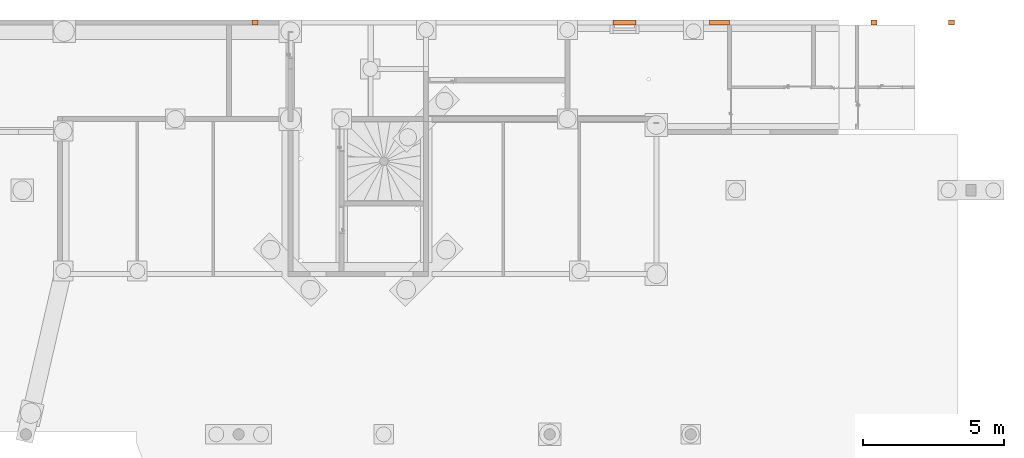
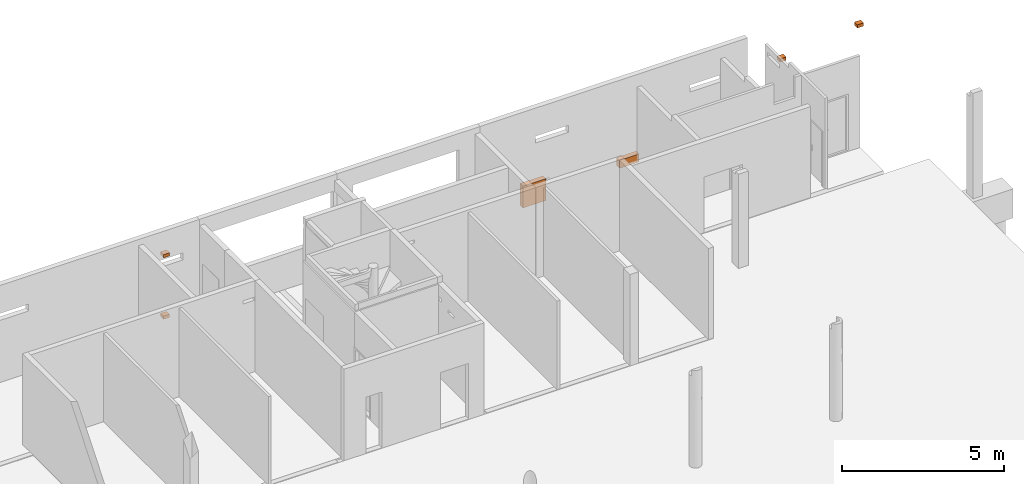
# One storey, part 29 of 29: 6 proxies.
"""IFC2X3 building model written with IfcOpenShell, lengths in centimetres."""

from ifc_helpers import new_model, entity, si_unit, converted_unit, derived_unit, direction, frame, frame_2d, origin, place, context, subcontext, project, spatial, rectangle, extrude, source, transform, mapped, material, type_object, type_shapes, element, save


model = new_model("IFC2X3")

# Units and contexts
model_context = context("Model", 3, precision=0.001, world=origin(), true_north=direction((6.12303176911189e-17, 1.0)))
body_context = subcontext(model_context, "Body", "Model", "MODEL_VIEW")
ifc_project = project(units=[si_unit("LENGTHUNIT", "METRE", prefix="CENTI"), si_unit("AREAUNIT", "SQUARE_METRE"), si_unit("VOLUMEUNIT", "CUBIC_METRE"), converted_unit("PLANEANGLEUNIT", "DEGREE", entity("IfcRatioMeasure", 0.0174532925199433), si_unit("PLANEANGLEUNIT", "RADIAN"), dimensions=[0, 0, 0, 0, 0, 0, 0]), si_unit("MASSUNIT", "GRAM", prefix="KILO"), derived_unit("MASSDENSITYUNIT", [(si_unit("MASSUNIT", "GRAM", prefix="KILO"), 1), (si_unit("LENGTHUNIT", "METRE"), -3)]), si_unit("TIMEUNIT", "SECOND"), si_unit("FREQUENCYUNIT", "HERTZ"), si_unit("THERMODYNAMICTEMPERATUREUNIT", "DEGREE_CELSIUS"), derived_unit("THERMALTRANSMITTANCEUNIT", [(si_unit("MASSUNIT", "GRAM", prefix="KILO"), 1), (si_unit("THERMODYNAMICTEMPERATUREUNIT", "KELVIN"), -1), (si_unit("TIMEUNIT", "SECOND"), -3)]), derived_unit("VOLUMETRICFLOWRATEUNIT", [(si_unit("LENGTHUNIT", "METRE"), 3), (si_unit("TIMEUNIT", "SECOND"), -1)]), si_unit("ELECTRICCURRENTUNIT", "AMPERE"), si_unit("ELECTRICVOLTAGEUNIT", "VOLT"), si_unit("POWERUNIT", "WATT"), si_unit("FORCEUNIT", "NEWTON"), si_unit("ILLUMINANCEUNIT", "LUX"), si_unit("LUMINOUSFLUXUNIT", "LUMEN"), si_unit("LUMINOUSINTENSITYUNIT", "CANDELA"), derived_unit("USERDEFINED", [(si_unit("MASSUNIT", "GRAM", prefix="KILO"), -1), (si_unit("LENGTHUNIT", "METRE"), -2), (si_unit("TIMEUNIT", "SECOND"), 3), (si_unit("LUMINOUSFLUXUNIT", "LUMEN"), 1)]), derived_unit("LINEARVELOCITYUNIT", [(si_unit("LENGTHUNIT", "METRE"), 1), (si_unit("TIMEUNIT", "SECOND"), -1)]), si_unit("PRESSUREUNIT", "PASCAL"), derived_unit("USERDEFINED", [(si_unit("LENGTHUNIT", "METRE"), -2), (si_unit("MASSUNIT", "GRAM", prefix="KILO"), 1), (si_unit("TIMEUNIT", "SECOND"), -2)])], contexts=[model_context])

# Site, building, storey
site_placement = place(None, origin())
site = spatial("IfcSite", under=ifc_project, at=site_placement, Name="Default", CompositionType="ELEMENT")
building_placement = place(site_placement, origin())
building = spatial("IfcBuilding", under=site, at=building_placement, Name="CAGE 03", CompositionType="ELEMENT")
storey_placement = place(building_placement, frame((0.0, 0.0, -26.0)))
storey = spatial("IfcBuildingStorey", under=building, at=storey_placement, Name="+3.74", CompositionType="ELEMENT", Elevation=-26.0000000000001)

# Proxies
ifc_material = material(Name="BBGO_Résa")
building_element_proxy_type_1 = type_object("IfcBuildingElementProxyType", Name="Réservation", PredefinedType="NOTDEFINED", material=ifc_material)
shared_shape_1 = source(origin(), body_context, "Body", "SweptSolid", [
    extrude(rectangle(XDim=17.9999999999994, YDim=22.0000000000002, at=frame_2d((-4.33431068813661e-13, -4.33431068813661e-13), x_axis=(1.0, 0.0))), frame((6714.36582014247, 5284.6606660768, 8.0), z_axis=(0.0, 0.0, 1.0), x_axis=(0.0, 1.0, 0.0)), (0.0, 0.0, 1.0), 12.0),
])
type_shapes(building_element_proxy_type_1, [shared_shape_1])
proxy_1_placement = place(storey_placement, frame((0.0, 0.0, 26.0)))
element("IfcBuildingElementProxy", 1, at=proxy_1_placement, inside=storey, type_object=building_element_proxy_type_1, material=ifc_material, Name="BBGO-Résa rect et circ:Réservation", ObjectType="Réservation", context=body_context, shape_type="MappedRepresentation", body=[
    mapped(shared_shape_1, transform((0.0, 0.0, 0.0), scale=1.0)),
])
building_element_proxy_type_2 = type_object("IfcBuildingElementProxyType", Name="Réservation", PredefinedType="NOTDEFINED", material=ifc_material)
shared_shape_2 = source(origin(), body_context, "Body", "SweptSolid", [
    extrude(rectangle(XDim=17.9999999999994, YDim=22.0000000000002, at=frame_2d((-4.33431068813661e-13, -4.33431068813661e-13), x_axis=(1.0, 0.0))), frame((6714.3658201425, 5284.6606660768, 240.0), z_axis=(0.0, 0.0, 1.0), x_axis=(0.0, 1.0, 0.0)), (0.0, 0.0, 1.0), 12.0),
])
type_shapes(building_element_proxy_type_2, [shared_shape_2])
proxy_2_placement = place(storey_placement, frame((0.0, 0.0, 26.0)))
element("IfcBuildingElementProxy", 2, at=proxy_2_placement, inside=storey, type_object=building_element_proxy_type_2, material=ifc_material, Name="BBGO-Résa rect et circ:Réservation", ObjectType="Réservation", context=body_context, shape_type="MappedRepresentation", body=[
    mapped(shared_shape_2, transform((0.0, 0.0, 0.0), scale=1.0)),
])
building_element_proxy_type_3 = type_object("IfcBuildingElementProxyType", Name="Réservation", PredefinedType="NOTDEFINED", material=ifc_material)
shared_shape_3 = source(origin(), body_context, "Body", "SweptSolid", [
    extrude(rectangle(XDim=17.9999999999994, YDim=82.0000000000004, at=frame_2d((8.65973959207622e-13, 0.0), x_axis=(1.0, 0.0))), frame((8026.86582014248, 5284.6606660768, -21.0), z_axis=(0.0, 0.0, 1.0), x_axis=(0.0, 1.0, 0.0)), (0.0, 0.0, 1.0), 82.0),
])
type_shapes(building_element_proxy_type_3, [shared_shape_3])
proxy_3_placement = place(storey_placement, frame((0.0, 0.0, 26.0)))
element("IfcBuildingElementProxy", 3, at=proxy_3_placement, inside=storey, type_object=building_element_proxy_type_3, material=ifc_material, Name="BBGO-Résa rect et circ:Réservation", ObjectType="Réservation", context=body_context, shape_type="MappedRepresentation", body=[
    mapped(shared_shape_3, transform((0.0, 0.0, 0.0), scale=1.0)),
])
building_element_proxy_type_4 = type_object("IfcBuildingElementProxyType", Name="Réservation", PredefinedType="NOTDEFINED", material=ifc_material)
shared_shape_4 = source(origin(), body_context, "Body", "SweptSolid", [
    extrude(rectangle(XDim=17.9999999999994, YDim=69.9999999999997, at=frame_2d((4.32542890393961e-13, 0.0), x_axis=(1.0, 0.0))), frame((8364.86582014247, 5284.6606660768, 8.0), z_axis=(0.0, 0.0, 1.0), x_axis=(0.0, 1.0, 0.0)), (0.0, 0.0, 1.0), 30.0),
])
type_shapes(building_element_proxy_type_4, [shared_shape_4])
proxy_4_placement = place(storey_placement, frame((0.0, 0.0, 26.0)))
element("IfcBuildingElementProxy", 4, at=proxy_4_placement, inside=storey, type_object=building_element_proxy_type_4, material=ifc_material, Name="BBGO-Résa rect et circ:Réservation", ObjectType="Réservation", context=body_context, shape_type="MappedRepresentation", body=[
    mapped(shared_shape_4, transform((0.0, 0.0, 0.0), scale=1.0)),
])
building_element_proxy_type_5 = type_object("IfcBuildingElementProxyType", Name="Réservation", PredefinedType="NOTDEFINED", material=ifc_material)
shared_shape_5 = source(origin(), body_context, "Body", "SweptSolid", [
    extrude(rectangle(XDim=17.9999999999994, YDim=21.9999999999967, at=frame_2d((4.33431068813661e-13, 0.0), x_axis=(1.0, 0.0))), frame((8913.36582014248, 5284.66066607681, 208.0), z_axis=(0.0, 0.0, 1.0), x_axis=(0.0, 1.0, 0.0)), (0.0, 0.0, 1.0), 11.9999999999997),
])
type_shapes(building_element_proxy_type_5, [shared_shape_5])
proxy_5_placement = place(storey_placement, frame((0.0, 0.0, 26.0)))
element("IfcBuildingElementProxy", 5, at=proxy_5_placement, inside=storey, type_object=building_element_proxy_type_5, material=ifc_material, Name="BBGO-Résa rect et circ:Réservation", ObjectType="Réservation", context=body_context, shape_type="MappedRepresentation", body=[
    mapped(shared_shape_5, transform((0.0, 0.0, 0.0), scale=1.0)),
])
building_element_proxy_type_6 = type_object("IfcBuildingElementProxyType", Name="Réservation", PredefinedType="NOTDEFINED", material=ifc_material)
shared_shape_6 = source(origin(), body_context, "Body", "SweptSolid", [
    extrude(rectangle(XDim=17.9999999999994, YDim=22.0000000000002, at=frame_2d((4.33431068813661e-13, 0.0), x_axis=(1.0, 0.0))), frame((9189.36582014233, 5284.66066607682, 240.0), z_axis=(0.0, 0.0, 1.0), x_axis=(0.0, 1.0, 0.0)), (0.0, 0.0, 1.0), 12.0),
])
type_shapes(building_element_proxy_type_6, [shared_shape_6])
proxy_6_placement = place(storey_placement, frame((0.0, 0.0, 26.0)))
element("IfcBuildingElementProxy", 6, at=proxy_6_placement, inside=storey, type_object=building_element_proxy_type_6, material=ifc_material, Name="BBGO-Résa rect et circ:Réservation", ObjectType="Réservation", context=body_context, shape_type="MappedRepresentation", body=[
    mapped(shared_shape_6, transform((0.0, 0.0, 0.0), scale=1.0)),
])

save(model, "model.ifc")
